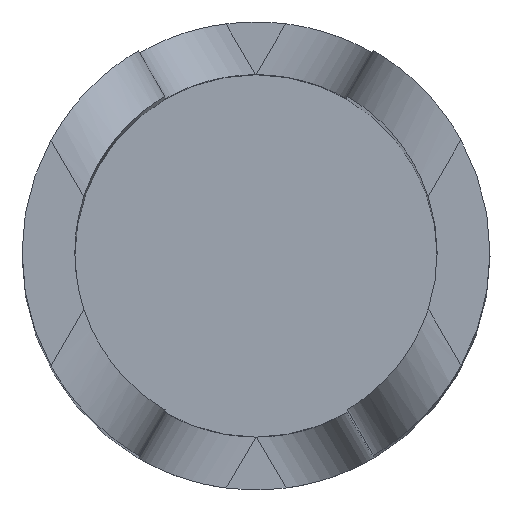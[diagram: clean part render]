
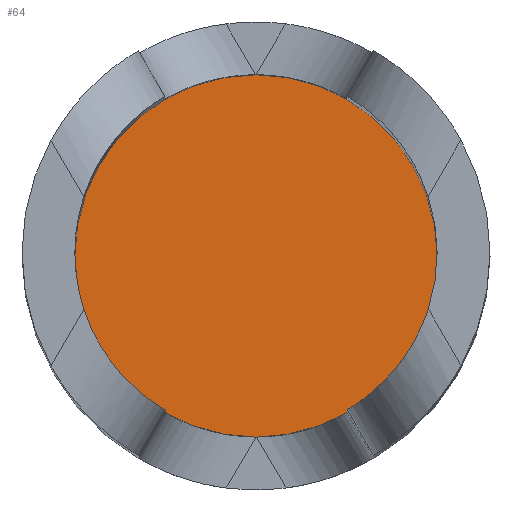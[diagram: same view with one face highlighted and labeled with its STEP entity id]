
A CAD part, top view. The second image highlights one B-rep face of the part: STEP entity #64.
In plain terms, the highlighted planar face has unit normal (0, 0, 1).
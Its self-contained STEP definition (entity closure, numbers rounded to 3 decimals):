
#64=ADVANCED_FACE('',(#155),#157,.T.);
#155=FACE_BOUND('',#156,.T.);
#156=EDGE_LOOP('',(#298));
#157=PLANE('',#158);
#158=AXIS2_PLACEMENT_3D('',#159,#160,#161);
#159=CARTESIAN_POINT('',(0.,0.,2.));
#160=DIRECTION('',(0.,0.,1.));
#161=DIRECTION('',(-1.,0.,0.));
#298=ORIENTED_EDGE('',*,*,#368,.T.);
#368=EDGE_CURVE('',#456,#456,#457,.T.);
#456=VERTEX_POINT('',#1635);
#457=CIRCLE('',#1636,6.);
#1635=CARTESIAN_POINT('',(-6.,0.,2.));
#1636=AXIS2_PLACEMENT_3D('',#1637,#1638,#1639);
#1637=CARTESIAN_POINT('',(0.,0.,2.));
#1638=DIRECTION('',(0.,0.,1.));
#1639=DIRECTION('',(-1.,0.,0.));
